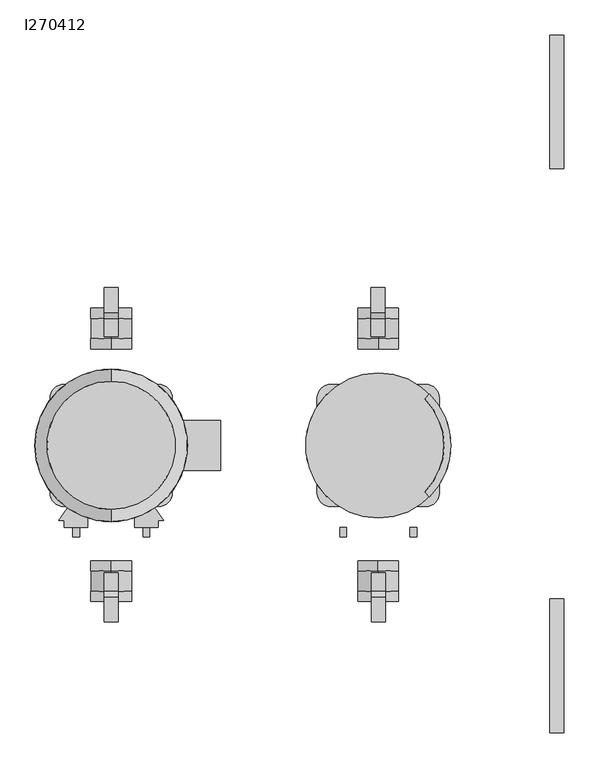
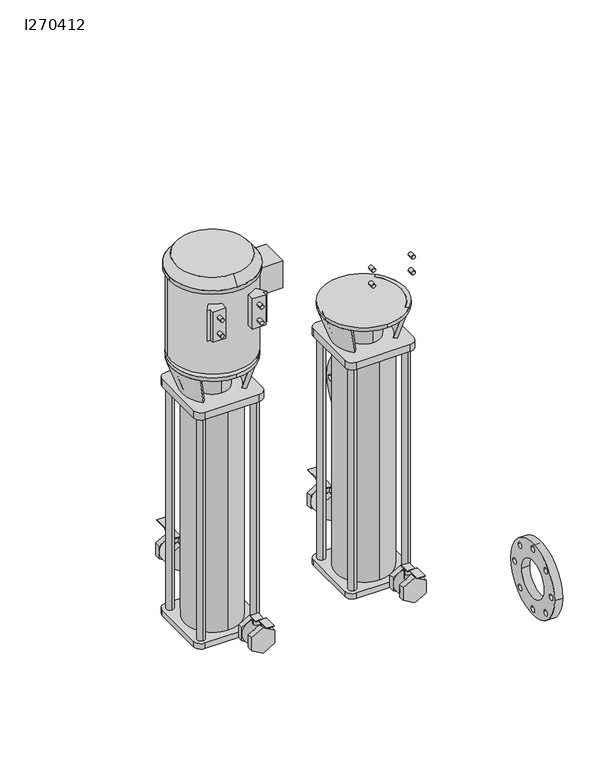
"""IFC4 building model written with IfcOpenShell, lengths in millimetres: proxy geometry, GES Booster Pumps - Armstrong-6800DE2P-SRDR : I270412."""

from ifc_helpers import new_model, si_unit, point, frame, frame_2d, origin, place, context, project, spatial, polyline, circle_curve, trimmed, segment, composite_curve, outline, extrude, source, transform, mapped, element, save
from ifc_brep_helpers import plane_surface, revolved_surface, advanced_brep


def i270412_7bbb27d8(model_context):
    return source(origin(), model_context, "Body", "SolidModel", [
        extrude(outline(composite_curve([segment(trimmed(circle_curve(frame_2d((-412.496, 170.688)), 125.0), [point((-287.496, 170.688))], [point((-537.496, 170.688))], False, "CARTESIAN"), True, "CONTINUOUS"), segment(trimmed(circle_curve(frame_2d((-412.496, 170.688)), 125.0), [point((-537.496, 170.688))], [point((-287.496, 170.688))], False, "CARTESIAN"), True, "CONTINUOUS")], self_intersect=False), holes=[composite_curve([segment(trimmed(circle_curve(frame_2d((-486.156, 244.348)), 9.652), [point((-495.808, 244.348))], [point((-476.504, 244.348))], True, "CARTESIAN"), True, "CONTINUOUS"), segment(trimmed(circle_curve(frame_2d((-486.156, 244.348)), 9.652), [point((-476.504, 244.348))], [point((-495.808, 244.348))], True, "CARTESIAN"), True, "CONTINUOUS")], self_intersect=False), composite_curve([segment(trimmed(circle_curve(frame_2d((-517.398, 170.688)), 9.652), [point((-527.05, 170.688))], [point((-507.746, 170.688))], True, "CARTESIAN"), True, "CONTINUOUS"), segment(trimmed(circle_curve(frame_2d((-517.398, 170.688)), 9.652), [point((-507.746, 170.688))], [point((-527.05, 170.688))], True, "CARTESIAN"), True, "CONTINUOUS")], self_intersect=False), composite_curve([segment(trimmed(circle_curve(frame_2d((-486.156, 97.028)), 9.652), [point((-495.808, 97.028))], [point((-476.504, 97.028))], True, "CARTESIAN"), True, "CONTINUOUS"), segment(trimmed(circle_curve(frame_2d((-486.156, 97.028)), 9.652), [point((-476.504, 97.028))], [point((-495.808, 97.028))], True, "CARTESIAN"), True, "CONTINUOUS")], self_intersect=False), composite_curve([segment(trimmed(circle_curve(frame_2d((-412.496, 65.786)), 9.652), [point((-422.148, 65.786))], [point((-402.844, 65.786))], True, "CARTESIAN"), True, "CONTINUOUS"), segment(trimmed(circle_curve(frame_2d((-412.496, 65.786)), 9.652), [point((-402.844, 65.786))], [point((-422.148, 65.786))], True, "CARTESIAN"), True, "CONTINUOUS")], self_intersect=False), composite_curve([segment(trimmed(circle_curve(frame_2d((-307.594, 170.688)), 9.652), [point((-317.246, 170.688))], [point((-297.942, 170.688))], True, "CARTESIAN"), True, "CONTINUOUS"), segment(trimmed(circle_curve(frame_2d((-307.594, 170.688)), 9.652), [point((-297.942, 170.688))], [point((-317.246, 170.688))], True, "CARTESIAN"), True, "CONTINUOUS")], self_intersect=False), composite_curve([segment(trimmed(circle_curve(frame_2d((-338.836, 244.348)), 9.652), [point((-348.488, 244.348))], [point((-329.184, 244.348))], True, "CARTESIAN"), True, "CONTINUOUS"), segment(trimmed(circle_curve(frame_2d((-338.836, 244.348)), 9.652), [point((-329.184, 244.348))], [point((-348.488, 244.348))], True, "CARTESIAN"), True, "CONTINUOUS")], self_intersect=False), composite_curve([segment(trimmed(circle_curve(frame_2d((-412.496, 275.59)), 9.652), [point((-422.148, 275.59))], [point((-402.844, 275.59))], True, "CARTESIAN"), True, "CONTINUOUS"), segment(trimmed(circle_curve(frame_2d((-412.496, 275.59)), 9.652), [point((-402.844, 275.59))], [point((-422.148, 275.59))], True, "CARTESIAN"), True, "CONTINUOUS")], self_intersect=False), composite_curve([segment(trimmed(circle_curve(frame_2d((-338.836, 97.028)), 9.652), [point((-348.488, 97.028))], [point((-329.184, 97.028))], True, "CARTESIAN"), True, "CONTINUOUS"), segment(trimmed(circle_curve(frame_2d((-338.836, 97.028)), 9.652), [point((-329.184, 97.028))], [point((-348.488, 97.028))], True, "CARTESIAN"), True, "CONTINUOUS")], self_intersect=False), composite_curve([segment(trimmed(circle_curve(frame_2d((-412.496, 170.688)), 63.5), [point((-348.996, 170.688))], [point((-475.996, 170.688))], True, "CARTESIAN"), True, "CONTINUOUS"), segment(trimmed(circle_curve(frame_2d((-412.496, 170.688)), 63.5), [point((-475.996, 170.688))], [point((-348.996, 170.688))], True, "CARTESIAN"), True, "CONTINUOUS")], self_intersect=False)]), frame((554.771, 0.0, 0.0), z_axis=(1.0, 0.0, 0.0), x_axis=(0.0, 1.0, 0.0)), (0.0, 0.0, 1.0), 26.0),
        extrude(outline(composite_curve([segment(trimmed(circle_curve(frame_2d((643.636, 170.688)), 125.0), [point((768.636, 170.688))], [point((518.636, 170.688))], False, "CARTESIAN"), True, "CONTINUOUS"), segment(trimmed(circle_curve(frame_2d((643.636, 170.688)), 125.0), [point((518.636, 170.688))], [point((768.636, 170.688))], False, "CARTESIAN"), True, "CONTINUOUS")], self_intersect=False), holes=[composite_curve([segment(trimmed(circle_curve(frame_2d((569.976, 244.348)), 9.652), [point((560.324, 244.348))], [point((579.628, 244.348))], True, "CARTESIAN"), True, "CONTINUOUS"), segment(trimmed(circle_curve(frame_2d((569.976, 244.348)), 9.652), [point((579.628, 244.348))], [point((560.324, 244.348))], True, "CARTESIAN"), True, "CONTINUOUS")], self_intersect=False), composite_curve([segment(trimmed(circle_curve(frame_2d((538.734, 170.688)), 9.652), [point((529.082, 170.688))], [point((548.386, 170.688))], True, "CARTESIAN"), True, "CONTINUOUS"), segment(trimmed(circle_curve(frame_2d((538.734, 170.688)), 9.652), [point((548.386, 170.688))], [point((529.082, 170.688))], True, "CARTESIAN"), True, "CONTINUOUS")], self_intersect=False), composite_curve([segment(trimmed(circle_curve(frame_2d((569.976, 97.028)), 9.652), [point((560.324, 97.028))], [point((579.628, 97.028))], True, "CARTESIAN"), True, "CONTINUOUS"), segment(trimmed(circle_curve(frame_2d((569.976, 97.028)), 9.652), [point((579.628, 97.028))], [point((560.324, 97.028))], True, "CARTESIAN"), True, "CONTINUOUS")], self_intersect=False), composite_curve([segment(trimmed(circle_curve(frame_2d((643.636, 65.786)), 9.652), [point((633.984, 65.786))], [point((653.288, 65.786))], True, "CARTESIAN"), True, "CONTINUOUS"), segment(trimmed(circle_curve(frame_2d((643.636, 65.786)), 9.652), [point((653.288, 65.786))], [point((633.984, 65.786))], True, "CARTESIAN"), True, "CONTINUOUS")], self_intersect=False), composite_curve([segment(trimmed(circle_curve(frame_2d((748.538, 170.688)), 9.652), [point((738.886, 170.688))], [point((758.19, 170.688))], True, "CARTESIAN"), True, "CONTINUOUS"), segment(trimmed(circle_curve(frame_2d((748.538, 170.688)), 9.652), [point((758.19, 170.688))], [point((738.886, 170.688))], True, "CARTESIAN"), True, "CONTINUOUS")], self_intersect=False), composite_curve([segment(trimmed(circle_curve(frame_2d((717.296, 244.348)), 9.652), [point((707.644, 244.348))], [point((726.948, 244.348))], True, "CARTESIAN"), True, "CONTINUOUS"), segment(trimmed(circle_curve(frame_2d((717.296, 244.348)), 9.652), [point((726.948, 244.348))], [point((707.644, 244.348))], True, "CARTESIAN"), True, "CONTINUOUS")], self_intersect=False), composite_curve([segment(trimmed(circle_curve(frame_2d((643.636, 275.59)), 9.652), [point((633.984, 275.59))], [point((653.288, 275.59))], True, "CARTESIAN"), True, "CONTINUOUS"), segment(trimmed(circle_curve(frame_2d((643.636, 275.59)), 9.652), [point((653.288, 275.59))], [point((633.984, 275.59))], True, "CARTESIAN"), True, "CONTINUOUS")], self_intersect=False), composite_curve([segment(trimmed(circle_curve(frame_2d((717.296, 97.028)), 9.652), [point((707.644, 97.028))], [point((726.948, 97.028))], True, "CARTESIAN"), True, "CONTINUOUS"), segment(trimmed(circle_curve(frame_2d((717.296, 97.028)), 9.652), [point((726.948, 97.028))], [point((707.644, 97.028))], True, "CARTESIAN"), True, "CONTINUOUS")], self_intersect=False), composite_curve([segment(trimmed(circle_curve(frame_2d((643.636, 170.688)), 63.5), [point((707.136, 170.688))], [point((580.136, 170.688))], True, "CARTESIAN"), True, "CONTINUOUS"), segment(trimmed(circle_curve(frame_2d((643.636, 170.688)), 63.5), [point((580.136, 170.688))], [point((707.136, 170.688))], True, "CARTESIAN"), True, "CONTINUOUS")], self_intersect=False)]), frame((555.025, 0.0, 0.0), z_axis=(1.0, 0.0, 0.0), x_axis=(0.0, 1.0, 0.0)), (0.0, 0.0, 1.0), 26.0),
        extrude(outline(polyline([(-238.5428709, 229.743), (-238.5428709, 227.203), (-271.5758463, 227.203), (-284.2758463, 238.506), (-330.073, 238.506), (-330.073, 240.538), (-284.0737107, 240.538), (-271.8817107, 229.743), (-238.5428709, 229.743)])), frame((-279.2750755, 0.0, 0.0), z_axis=(1.0, 0.0, 0.0), x_axis=(0.0, 1.0, 0.0)), (0.0, 0.0, 1.0), 26.1980307),
        extrude(outline(composite_curve([segment(trimmed(circle_curve(frame_2d((170.688, -266.573)), 38.1), [point((132.588, -266.573))], [point((208.788, -266.573))], False, "CARTESIAN"), True, "CONTINUOUS"), segment(trimmed(circle_curve(frame_2d((170.688, -266.573)), 38.1), [point((208.788, -266.573))], [point((132.588, -266.573))], False, "CARTESIAN"), True, "CONTINUOUS")], self_intersect=False)), frame((0.0, -272.923, 0.0), z_axis=(0.0, 1.0, 0.0), x_axis=(0.0, 0.0, 1.0)), (0.0, 0.0, 1.0), 38.1),
        extrude(outline(polyline([(192.8157236, -304.673), (148.5602764, -304.673), (126.6939095, -266.7993416), (148.8216331, -228.473), (192.5543669, -228.473), (214.6820905, -266.7993416), (192.8157236, -304.673)])), frame((0.0, -291.973, 0.0), z_axis=(0.0, 1.0, 0.0), x_axis=(0.0, 0.0, 1.0)), (0.0, 0.0, 1.0), 19.05),
        extrude(outline(composite_curve([segment(trimmed(circle_curve(frame_2d((-266.573, -253.873)), 11.4313706), [point((-278.0043706, -253.873))], [point((-255.1416294, -253.873))], False, "CARTESIAN"), True, "CONTINUOUS"), segment(trimmed(circle_curve(frame_2d((-266.573, -253.873)), 11.4313706), [point((-255.1416294, -253.873))], [point((-278.0043706, -253.873))], False, "CARTESIAN"), True, "CONTINUOUS")], self_intersect=False)), frame((0.0, 0.0, 170.688), z_axis=(0.0, 0.0, 1.0), x_axis=(1.0, 0.0, 0.0)), (0.0, 0.0, 1.0), 56.515),
        extrude(outline(polyline([(192.8157236, -304.673), (148.5602764, -304.673), (126.6939095, -266.7993416), (148.8216331, -228.473), (192.5543669, -228.473), (214.6820905, -266.7993416), (192.8157236, -304.673)])), frame((0.0, -234.823, 0.0), z_axis=(0.0, 1.0, 0.0), x_axis=(0.0, 0.0, 1.0)), (0.0, 0.0, 1.0), 19.05),
        extrude(outline(polyline([(203.7448709, 229.743), (237.0837107, 229.743), (249.2757107, 240.538), (295.275, 240.538), (295.275, 238.506), (249.4778463, 238.506), (236.7778463, 227.203), (203.7448709, 227.203), (203.7448709, 229.743)])), frame((-280.0689552, 0.0, 0.0), z_axis=(1.0, 0.0, 0.0), x_axis=(0.0, 1.0, 0.0)), (0.0, 0.0, 1.0), 26.1980307),
        extrude(outline(composite_curve([segment(trimmed(circle_curve(frame_2d((170.688, -266.573)), 38.1), [point((132.588, -266.573))], [point((208.788, -266.573))], False, "CARTESIAN"), True, "CONTINUOUS"), segment(trimmed(circle_curve(frame_2d((170.688, -266.573)), 38.1), [point((208.788, -266.573))], [point((132.588, -266.573))], False, "CARTESIAN"), True, "CONTINUOUS")], self_intersect=False)), frame((0.0, 200.025, 0.0), z_axis=(0.0, 1.0, 0.0), x_axis=(0.0, 0.0, 1.0)), (0.0, 0.0, 1.0), 38.1),
        extrude(outline(polyline([(192.8157236, -228.473), (214.6820905, -266.3466584), (192.5543669, -304.673), (148.8216331, -304.673), (126.6939095, -266.3466584), (148.5602764, -228.473), (192.8157236, -228.473)])), frame((0.0, 238.125, 0.0), z_axis=(0.0, 1.0, 0.0), x_axis=(0.0, 0.0, 1.0)), (0.0, 0.0, 1.0), 19.05),
        extrude(outline(composite_curve([segment(trimmed(circle_curve(frame_2d((-266.573, 219.075)), 11.4313706), [point((-255.1416294, 219.075))], [point((-278.0043706, 219.075))], False, "CARTESIAN"), True, "CONTINUOUS"), segment(trimmed(circle_curve(frame_2d((-266.573, 219.075)), 11.4313706), [point((-278.0043706, 219.075))], [point((-255.1416294, 219.075))], False, "CARTESIAN"), True, "CONTINUOUS")], self_intersect=False)), frame((0.0, 0.0, 170.688), z_axis=(0.0, 0.0, 1.0), x_axis=(1.0, 0.0, 0.0)), (0.0, 0.0, 1.0), 56.515),
        extrude(outline(polyline([(192.8157236, -228.473), (214.6820905, -266.3466584), (192.5543669, -304.673), (148.8216331, -304.673), (126.6939095, -266.3466584), (148.5602764, -228.473), (192.8157236, -228.473)])), frame((0.0, 180.975, 0.0), z_axis=(0.0, 1.0, 0.0), x_axis=(0.0, 0.0, 1.0)), (0.0, 0.0, 1.0), 19.05),
        extrude(outline(polyline([(-238.5428709, 229.743), (-238.5428709, 227.203), (-271.5758463, 227.203), (-284.2758463, 238.506), (-330.073, 238.506), (-330.073, 240.538), (-284.0737107, 240.538), (-271.8817107, 229.743), (-238.5428709, 229.743)])), frame((220.8509245, 0.0, 0.0), z_axis=(1.0, 0.0, 0.0), x_axis=(0.0, 1.0, 0.0)), (0.0, 0.0, 1.0), 26.1980307),
        extrude(outline(composite_curve([segment(trimmed(circle_curve(frame_2d((170.688, 233.553)), 38.1), [point((132.588, 233.553))], [point((208.788, 233.553))], False, "CARTESIAN"), True, "CONTINUOUS"), segment(trimmed(circle_curve(frame_2d((170.688, 233.553)), 38.1), [point((208.788, 233.553))], [point((132.588, 233.553))], False, "CARTESIAN"), True, "CONTINUOUS")], self_intersect=False)), frame((0.0, -272.923, 0.0), z_axis=(0.0, 1.0, 0.0), x_axis=(0.0, 0.0, 1.0)), (0.0, 0.0, 1.0), 38.1),
        extrude(outline(polyline([(192.8157236, 195.453), (148.5602764, 195.453), (126.6939095, 233.3266584), (148.8216331, 271.653), (192.5543669, 271.653), (214.6820905, 233.3266584), (192.8157236, 195.453)])), frame((0.0, -291.973, 0.0), z_axis=(0.0, 1.0, 0.0), x_axis=(0.0, 0.0, 1.0)), (0.0, 0.0, 1.0), 19.05),
        extrude(outline(composite_curve([segment(trimmed(circle_curve(frame_2d((233.553, -253.873)), 11.4313706), [point((222.1216294, -253.873))], [point((244.9843706, -253.873))], False, "CARTESIAN"), True, "CONTINUOUS"), segment(trimmed(circle_curve(frame_2d((233.553, -253.873)), 11.4313706), [point((244.9843706, -253.873))], [point((222.1216294, -253.873))], False, "CARTESIAN"), True, "CONTINUOUS")], self_intersect=False)), frame((0.0, 0.0, 170.688), z_axis=(0.0, 0.0, 1.0), x_axis=(1.0, 0.0, 0.0)), (0.0, 0.0, 1.0), 56.515),
        extrude(outline(polyline([(192.8157236, 195.453), (148.5602764, 195.453), (126.6939095, 233.3266584), (148.8216331, 271.653), (192.5543669, 271.653), (214.6820905, 233.3266584), (192.8157236, 195.453)])), frame((0.0, -234.823, 0.0), z_axis=(0.0, 1.0, 0.0), x_axis=(0.0, 0.0, 1.0)), (0.0, 0.0, 1.0), 19.05),
        extrude(outline(polyline([(203.7448709, 229.743), (237.0837107, 229.743), (249.2757107, 240.538), (295.275, 240.538), (295.275, 238.506), (249.4778463, 238.506), (236.7778463, 227.203), (203.7448709, 227.203), (203.7448709, 229.743)])), frame((220.0570448, 0.0, 0.0), z_axis=(1.0, 0.0, 0.0), x_axis=(0.0, 1.0, 0.0)), (0.0, 0.0, 1.0), 26.1980307),
        extrude(outline(composite_curve([segment(trimmed(circle_curve(frame_2d((170.688, 233.553)), 38.1), [point((132.588, 233.553))], [point((208.788, 233.553))], False, "CARTESIAN"), True, "CONTINUOUS"), segment(trimmed(circle_curve(frame_2d((170.688, 233.553)), 38.1), [point((208.788, 233.553))], [point((132.588, 233.553))], False, "CARTESIAN"), True, "CONTINUOUS")], self_intersect=False)), frame((0.0, 200.025, 0.0), z_axis=(0.0, 1.0, 0.0), x_axis=(0.0, 0.0, 1.0)), (0.0, 0.0, 1.0), 38.1),
        extrude(outline(polyline([(192.8157236, 271.653), (214.6820905, 233.7793416), (192.5543669, 195.453), (148.8216331, 195.453), (126.6939095, 233.7793416), (148.5602764, 271.653), (192.8157236, 271.653)])), frame((0.0, 238.125, 0.0), z_axis=(0.0, 1.0, 0.0), x_axis=(0.0, 0.0, 1.0)), (0.0, 0.0, 1.0), 19.05),
        extrude(outline(composite_curve([segment(trimmed(circle_curve(frame_2d((233.553, 219.075)), 11.4313706), [point((244.9843706, 219.075))], [point((222.1216294, 219.075))], False, "CARTESIAN"), True, "CONTINUOUS"), segment(trimmed(circle_curve(frame_2d((233.553, 219.075)), 11.4313706), [point((222.1216294, 219.075))], [point((244.9843706, 219.075))], False, "CARTESIAN"), True, "CONTINUOUS")], self_intersect=False)), frame((0.0, 0.0, 170.688), z_axis=(0.0, 0.0, 1.0), x_axis=(1.0, 0.0, 0.0)), (0.0, 0.0, 1.0), 56.515),
        extrude(outline(polyline([(192.8157236, 271.653), (214.6820905, 233.7793416), (192.5543669, 195.453), (148.8216331, 195.453), (126.6939095, 233.7793416), (148.5602764, 271.653), (192.8157236, 271.653)])), frame((0.0, 180.975, 0.0), z_axis=(0.0, 1.0, 0.0), x_axis=(0.0, 0.0, 1.0)), (0.0, 0.0, 1.0), 19.05),
        extrude(outline(composite_curve([segment(trimmed(circle_curve(frame_2d((-266.573, 0.0)), 54.2925), [point((-266.573, -54.2925))], [point((-266.573, 54.2925))], False, "CARTESIAN"), True, "CONTINUOUS"), segment(trimmed(circle_curve(frame_2d((-266.573, 0.0)), 54.2925), [point((-266.573, 54.2925))], [point((-266.573, -54.2925))], False, "CARTESIAN"), True, "CONTINUOUS")], self_intersect=False)), frame((0.0, 0.0, 892.048), z_axis=(0.0, 0.0, 1.0), x_axis=(1.0, 0.0, 0.0)), (0.0, 0.0, 1.0), 50.8),
        advanced_brep(
        [(-364.20425, 0.0, 993.648), (-168.94175, 0.0, 993.648), (-320.8655, 0.0, 942.848), (-212.2805, 0.0, 942.848)],
        [
            (0, 1, circle_curve(frame((-266.573, 0.0, 993.648), z_axis=(0.0, 0.0, 1.0), x_axis=(1.0000000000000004, 0.0, 0.0)), 97.63125)),
            (1, 0, circle_curve(frame((-266.573, 0.0, 993.648), z_axis=(0.0, 0.0, 1.0), x_axis=(-1.0000000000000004, 0.0, 0.0)), 97.63125)),
            (2, 3, circle_curve(frame((-266.573, 0.0, 942.848), z_axis=(0.0, 0.0, -1.0), x_axis=(-1.0000000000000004, 0.0, 0.0)), 54.2925)),
            (3, 2, circle_curve(frame((-266.573, 0.0, 942.848), z_axis=(0.0, 0.0, -1.0), x_axis=(1.0000000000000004, 0.0, 0.0)), 54.2925)),
            (2, 0),
            (1, 3),
        ],
        [
            plane_surface(frame((-266.573, 0.0, 993.648), z_axis=(0.0, 0.0, 1.0), x_axis=(0.0, 1.0, 0.0))),
            plane_surface(frame((-266.573, 0.0, 942.848), z_axis=(0.0, 0.0, -1.0), x_axis=(0.0, 1.0, 0.0))),
            revolved_surface(polyline([(-320.86549998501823, 0.0, 942.848), (-364.20425, 0.0, 993.648)]), (-266.573, 0.0, 879.2084396), (0.0, 0.0, 1.0000000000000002)),
            revolved_surface(polyline([(-212.28050001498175, 0.0, 942.848), (-168.94175, 0.0, 993.648)]), (-266.573, 0.0, 879.2084396), (0.0, 0.0, 1.0000000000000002)),
        ],
        [
            (0, [[1, 2]]),
            (1, [[3, 4]]),
            (2, [[5, -2, 6, -3]]),
            (3, [[-6, -1, -5, -4]]),
        ],
    ),
        advanced_brep(
        [(-353.5692312, -86.9962312, 993.648), (-353.5692312, 86.9962312, 993.648), (-362.5494873, 95.9764873, 993.648), (-362.5494873, -95.9764873, 993.648), (-328.3122608, -61.7392608, 892.048), (-337.292517, -70.719517, 892.048), (-337.292517, 70.719517, 892.048), (-328.3122608, 61.7392608, 892.048)],
        [
            (0, 1, circle_curve(frame((-266.573, 0.0, 993.648), z_axis=(0.0, 0.0, -1.0), x_axis=(-0.7071067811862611, 0.7071067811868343, 0.0)), 123.03125)),
            (1, 2),
            (2, 3, circle_curve(frame((-266.573, 0.0, 993.648), z_axis=(0.0, 0.0, 1.0), x_axis=(-0.7071067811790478, -0.7071067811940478, 0.0)), 135.73125)),
            (3, 0),
            (4, 5),
            (5, 6, circle_curve(frame((-266.573, 0.0, 892.048), z_axis=(0.0, 0.0, -1.0), x_axis=(-0.7071067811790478, -0.7071067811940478, 0.0)), 100.0125)),
            (6, 7),
            (7, 4, circle_curve(frame((-266.573, 0.0, 892.048), z_axis=(0.0, 0.0, 1.0), x_axis=(-0.7071067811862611, 0.7071067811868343, 0.0)), 87.3125)),
            (7, 1),
            (0, 4),
            (6, 2),
            (5, 3),
        ],
        [
            plane_surface(frame((-358.0593592, 0.0, 993.648), z_axis=(0.0, 0.0, 1.0), x_axis=(-0.7071067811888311, 0.707106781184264, 0.0))),
            plane_surface(frame((-332.8023889, 0.0, 892.048), z_axis=(0.0, 0.0, -1.0), x_axis=(-0.7071067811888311, 0.707106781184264, 0.0))),
            revolved_surface(polyline([(-353.5692312, 86.9962312, 993.648), (-328.3122608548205, 61.73926085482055, 892.048)]), (-266.573, 0.0, 643.6924444), (0.0, 0.0, 1.0000000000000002)),
            plane_surface(frame((-332.8023889, 66.2293889, 892.048), z_axis=(0.7071067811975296, 0.7071067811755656, 4.489564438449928e-12), x_axis=(0.7071067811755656, -0.7071067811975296, 0.0))),
            revolved_surface(polyline([(-337.2925169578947, -70.71951695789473, 892.048), (-362.5494873, -95.9764873, 993.648)]), (-266.573, 0.0, 607.568), (0.0, 0.0, 1.0000000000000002)),
            plane_surface(frame((-332.8023889, -66.2293889, 892.048), z_axis=(0.707106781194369, -0.7071067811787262, 1.862399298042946e-12), x_axis=(-0.7071067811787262, -0.707106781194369, 0.0))),
        ],
        [
            (0, [[1, 2, 3, 4]]),
            (1, [[5, 6, 7, 8]]),
            (2, [[9, -1, 10, -8]]),
            (3, [[11, -2, -9, -7]]),
            (4, [[12, -3, -11, -6]]),
            (5, [[-10, -4, -12, -5]]),
        ],
    ),
        advanced_brep(
        [(-179.5767688, -86.9962312, 1006.348), (-170.5965127, -95.9764873, 1006.348), (-170.5965127, 95.9764873, 1006.348), (-179.5767688, 86.9962312, 1006.348), (-204.8337392, -61.7392608, 892.048), (-204.8337392, 61.7392608, 892.048), (-195.853483, 70.719517, 892.048), (-195.853483, -70.719517, 892.048)],
        [
            (0, 1),
            (1, 2, circle_curve(frame((-266.573, 0.0, 1006.348), z_axis=(0.0, 0.0, 1.0), x_axis=(0.7071067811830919, 0.7071067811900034, 0.0)), 135.73125)),
            (2, 3),
            (3, 0, circle_curve(frame((-266.573, 0.0, 1006.348), z_axis=(0.0, 0.0, -1.0), x_axis=(0.7071067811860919, -0.7071067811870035, 0.0)), 123.03125)),
            (4, 5, circle_curve(frame((-266.573, 0.0, 892.048), z_axis=(0.0, 0.0, 1.0), x_axis=(0.7071067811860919, -0.7071067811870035, 0.0)), 87.3125)),
            (5, 6),
            (6, 7, circle_curve(frame((-266.573, 0.0, 892.048), z_axis=(0.0, 0.0, -1.0), x_axis=(0.7071067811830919, 0.7071067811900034, 0.0)), 100.0125)),
            (7, 4),
            (4, 0),
            (3, 5),
            (2, 6),
            (1, 7),
        ],
        [
            plane_surface(frame((-175.0866408, 0.0, 1006.348), z_axis=(0.0, 0.0, 1.0000000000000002), x_axis=(-0.7071067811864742, 0.707106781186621, 0.0))),
            plane_surface(frame((-200.3436111, 0.0, 892.048), z_axis=(0.0, 0.0, -1.0000000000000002), x_axis=(-0.7071067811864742, 0.707106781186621, 0.0))),
            revolved_surface(polyline([(-179.5767688, -86.9962312, 1006.348), (-204.83373914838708, -61.739260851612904, 892.048)]), (-266.573, 0.0, 612.648), (0.0, 0.0, 1.0000000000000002)),
            plane_surface(frame((-200.3436111, 66.2293889, 892.048), z_axis=(-0.7071067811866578, 0.7071067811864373, -1.5338439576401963e-12), x_axis=(0.7071067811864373, 0.7071067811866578, 0.0))),
            revolved_surface(polyline([(-195.85348304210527, 70.71951695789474, 892.048), (-170.5965127, 95.9764873, 1006.348)]), (-266.573, 0.0, 572.008), (0.0, 0.0, 1.0000000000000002)),
            plane_surface(frame((-200.3436111, -66.2293889, 892.048), z_axis=(-0.707106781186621, -0.7071067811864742, 0.0), x_axis=(-0.7071067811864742, 0.707106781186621, 0.0))),
        ],
        [
            (0, [[1, 2, 3, 4]]),
            (1, [[5, 6, 7, 8]]),
            (2, [[9, -4, 10, -5]]),
            (3, [[-10, -3, 11, -6]]),
            (4, [[-11, -2, 12, -7]]),
            (5, [[-12, -1, -9, -8]]),
        ],
    ),
        extrude(outline(composite_curve([segment(trimmed(circle_curve(frame_2d((-266.573, 0.0)), 135.73125), [point((-266.573, -135.73125))], [point((-266.573, 135.73125))], False, "CARTESIAN"), True, "CONTINUOUS"), segment(trimmed(circle_curve(frame_2d((-266.573, 0.0)), 135.73125), [point((-266.573, 135.73125))], [point((-266.573, -135.73125))], False, "CARTESIAN"), True, "CONTINUOUS")], self_intersect=False)), frame((0.0, 0.0, 993.648), z_axis=(0.0, 0.0, 1.0), x_axis=(1.0, 0.0, 0.0)), (0.0, 0.0, 1.0), 12.7),
        extrude(outline(composite_curve([segment(trimmed(circle_curve(frame_2d((1183.9956, -200.8124)), 6.35), [point((1183.9956, -194.4624))], [point((1183.9956, -207.1624))], False, "CARTESIAN"), True, "CONTINUOUS"), segment(trimmed(circle_curve(frame_2d((1183.9956, -200.8124)), 6.35), [point((1183.9956, -207.1624))], [point((1183.9956, -194.4624))], False, "CARTESIAN"), True, "CONTINUOUS")], self_intersect=False)), frame((0.0, -171.45, 0.0), z_axis=(0.0, 1.0, 0.0), x_axis=(0.0, 0.0, 1.0)), (0.0, 0.0, 1.0), 18.415),
        extrude(outline(composite_curve([segment(trimmed(circle_curve(frame_2d((1239.266, -200.8124)), 6.35), [point((1239.266, -194.4624))], [point((1239.266, -207.1624))], False, "CARTESIAN"), True, "CONTINUOUS"), segment(trimmed(circle_curve(frame_2d((1239.266, -200.8124)), 6.35), [point((1239.266, -207.1624))], [point((1239.266, -194.4624))], False, "CARTESIAN"), True, "CONTINUOUS")], self_intersect=False)), frame((0.0, -171.45, 0.0), z_axis=(0.0, 1.0, 0.0), x_axis=(0.0, 0.0, 1.0)), (0.0, 0.0, 1.0), 18.415),
        extrude(outline(composite_curve([segment(trimmed(circle_curve(frame_2d((1239.266, -332.3336)), 6.35), [point((1239.266, -325.9836))], [point((1239.266, -338.6836))], False, "CARTESIAN"), True, "CONTINUOUS"), segment(trimmed(circle_curve(frame_2d((1239.266, -332.3336)), 6.35), [point((1239.266, -338.6836))], [point((1239.266, -325.9836))], False, "CARTESIAN"), True, "CONTINUOUS")], self_intersect=False)), frame((0.0, -171.45, 0.0), z_axis=(0.0, 1.0, 0.0), x_axis=(0.0, 0.0, 1.0)), (0.0, 0.0, 1.0), 18.415),
        extrude(outline(composite_curve([segment(trimmed(circle_curve(frame_2d((1183.9956, -332.3336)), 6.35), [point((1183.9956, -325.9836))], [point((1183.9956, -338.6836))], False, "CARTESIAN"), True, "CONTINUOUS"), segment(trimmed(circle_curve(frame_2d((1183.9956, -332.3336)), 6.35), [point((1183.9956, -338.6836))], [point((1183.9956, -325.9836))], False, "CARTESIAN"), True, "CONTINUOUS")], self_intersect=False)), frame((0.0, -171.45, 0.0), z_axis=(0.0, 1.0, 0.0), x_axis=(0.0, 0.0, 1.0)), (0.0, 0.0, 1.0), 18.415),
        extrude(outline(composite_curve([segment(trimmed(circle_curve(frame_2d((-355.473, 88.9)), 12.7), [point((-355.473, 101.6))], [point((-355.473, 76.2))], False, "CARTESIAN"), True, "CONTINUOUS"), segment(trimmed(circle_curve(frame_2d((-355.473, 88.9)), 12.7), [point((-355.473, 76.2))], [point((-355.473, 101.6))], False, "CARTESIAN"), True, "CONTINUOUS")], self_intersect=False)), frame((0.0, 0.0, 85.09), z_axis=(0.0, 0.0, 1.0), x_axis=(1.0, 0.0, 0.0)), (0.0, 0.0, 1.0), 781.558),
        extrude(outline(composite_curve([segment(trimmed(circle_curve(frame_2d((-355.473, -88.9)), 12.7), [point((-355.473, -76.2))], [point((-355.473, -101.6))], False, "CARTESIAN"), True, "CONTINUOUS"), segment(trimmed(circle_curve(frame_2d((-355.473, -88.9)), 12.7), [point((-355.473, -101.6))], [point((-355.473, -76.2))], False, "CARTESIAN"), True, "CONTINUOUS")], self_intersect=False)), frame((0.0, 0.0, 85.09), z_axis=(0.0, 0.0, 1.0), x_axis=(1.0, 0.0, 0.0)), (0.0, 0.0, 1.0), 781.558),
        extrude(outline(composite_curve([segment(trimmed(circle_curve(frame_2d((-177.673, -88.9)), 12.7), [point((-177.673, -76.2))], [point((-177.673, -101.6))], False, "CARTESIAN"), True, "CONTINUOUS"), segment(trimmed(circle_curve(frame_2d((-177.673, -88.9)), 12.7), [point((-177.673, -101.6))], [point((-177.673, -76.2))], False, "CARTESIAN"), True, "CONTINUOUS")], self_intersect=False)), frame((0.0, 0.0, 85.09), z_axis=(0.0, 0.0, 1.0), x_axis=(1.0, 0.0, 0.0)), (0.0, 0.0, 1.0), 781.558),
        extrude(outline(composite_curve([segment(trimmed(circle_curve(frame_2d((-177.673, 88.9)), 12.7), [point((-177.673, 101.6))], [point((-177.673, 76.2))], False, "CARTESIAN"), True, "CONTINUOUS"), segment(trimmed(circle_curve(frame_2d((-177.673, 88.9)), 12.7), [point((-177.673, 76.2))], [point((-177.673, 101.6))], False, "CARTESIAN"), True, "CONTINUOUS")], self_intersect=False)), frame((0.0, 0.0, 85.09), z_axis=(0.0, 0.0, 1.0), x_axis=(1.0, 0.0, 0.0)), (0.0, 0.0, 1.0), 781.558),
        extrude(outline(composite_curve([segment(polyline([(-380.873, -88.9), (-380.873, 88.9)]), True, "CONTINUOUS"), segment(trimmed(circle_curve(frame_2d((-355.473, 88.9)), 25.4), [point((-380.873, 88.9))], [point((-355.473, 114.3))], False, "CARTESIAN"), True, "CONTINUOUS"), segment(polyline([(-355.473, 114.3), (-177.673, 114.3)]), True, "CONTINUOUS"), segment(trimmed(circle_curve(frame_2d((-177.673, 88.9)), 25.4), [point((-177.673, 114.3))], [point((-152.273, 88.9))], False, "CARTESIAN"), True, "CONTINUOUS"), segment(polyline([(-152.273, 88.9), (-152.273, -88.9)]), True, "CONTINUOUS"), segment(trimmed(circle_curve(frame_2d((-177.673, -88.9)), 25.4), [point((-152.273, -88.9))], [point((-177.673, -114.3))], False, "CARTESIAN"), True, "CONTINUOUS"), segment(polyline([(-177.673, -114.3), (-355.473, -114.3)]), True, "CONTINUOUS"), segment(trimmed(circle_curve(frame_2d((-355.473, -88.9)), 25.4), [point((-355.473, -114.3))], [point((-380.873, -88.9))], False, "CARTESIAN"), True, "CONTINUOUS")], self_intersect=False)), frame((0.0, 0.0, 66.04), z_axis=(0.0, 0.0, 1.0), x_axis=(1.0, 0.0, 0.0)), (0.0, 0.0, 1.0), 19.05),
        extrude(outline(composite_curve([segment(trimmed(circle_curve(frame_2d((-266.573, 0.0)), 91.44), [point((-266.573, 91.44))], [point((-266.573, -91.44))], False, "CARTESIAN"), True, "CONTINUOUS"), segment(trimmed(circle_curve(frame_2d((-266.573, 0.0)), 91.44), [point((-266.573, -91.44))], [point((-266.573, 91.44))], False, "CARTESIAN"), True, "CONTINUOUS")], self_intersect=False)), frame((0.0, 0.0, 85.09), z_axis=(0.0, 0.0, 1.0), x_axis=(1.0, 0.0, 0.0)), (0.0, 0.0, 1.0), 781.558),
        extrude(outline(composite_curve([segment(polyline([(-380.873, -88.9), (-380.873, 88.9)]), True, "CONTINUOUS"), segment(trimmed(circle_curve(frame_2d((-355.473, 88.9)), 25.4), [point((-380.873, 88.9))], [point((-355.473, 114.3))], False, "CARTESIAN"), True, "CONTINUOUS"), segment(polyline([(-355.473, 114.3), (-177.673, 114.3)]), True, "CONTINUOUS"), segment(trimmed(circle_curve(frame_2d((-177.673, 88.9)), 25.4), [point((-177.673, 114.3))], [point((-152.273, 88.9))], False, "CARTESIAN"), True, "CONTINUOUS"), segment(polyline([(-152.273, 88.9), (-152.273, -88.9)]), True, "CONTINUOUS"), segment(trimmed(circle_curve(frame_2d((-177.673, -88.9)), 25.4), [point((-152.273, -88.9))], [point((-177.673, -114.3))], False, "CARTESIAN"), True, "CONTINUOUS"), segment(polyline([(-177.673, -114.3), (-355.473, -114.3)]), True, "CONTINUOUS"), segment(trimmed(circle_curve(frame_2d((-355.473, -88.9)), 25.4), [point((-355.473, -114.3))], [point((-380.873, -88.9))], False, "CARTESIAN"), True, "CONTINUOUS")], self_intersect=False)), frame((0.0, 0.0, 866.648), z_axis=(0.0, 0.0, 1.0), x_axis=(1.0, 0.0, 0.0)), (0.0, 0.0, 1.0), 25.4),
        extrude(outline(composite_curve([segment(trimmed(circle_curve(frame_2d((-266.573, 0.0)), 135.73125), [point((-132.9038127, -23.5694842))], [point((-400.2421873, 23.5694842))], False, "CARTESIAN"), True, "CONTINUOUS"), segment(trimmed(circle_curve(frame_2d((-266.573, 0.0)), 135.73125), [point((-400.2421873, 23.5694842))], [point((-132.9038127, -23.5694842))], False, "CARTESIAN"), True, "CONTINUOUS")], self_intersect=False)), frame((0.0, 0.0, 1019.048), z_axis=(0.0, 0.0, 1.0), x_axis=(1.0, 0.0, 0.0)), (0.0, 0.0, 1.0), 283.718),
        extrude(outline(composite_curve([segment(polyline([(-310.4134, -128.4561853), (-310.4134, -153.035), (-354.2538, -153.035), (-354.2538, -140.335), (-364.8366249, -140.335), (-344.4252467, -111.1845309)]), True, "CONTINUOUS"), segment(trimmed(circle_curve(frame_2d((-266.573, 0.0)), 135.73125), [point((-344.4252467, -111.1845309))], [point((-310.4134, -128.4561853))], True, "CARTESIAN"), True, "CONTINUOUS")], self_intersect=False)), frame((0.0, 0.0, 1158.5956), z_axis=(0.0, 0.0, 1.0), x_axis=(1.0, 0.0, 0.0)), (0.0, 0.0, 1.0), 106.0704),
        extrude(outline(composite_curve([segment(trimmed(circle_curve(frame_2d((-266.573, 0.0)), 135.73125), [point((-222.7326, -128.4561853))], [point((-188.7207533, -111.1845309))], True, "CARTESIAN"), True, "CONTINUOUS"), segment(polyline([(-188.7207533, -111.1845309), (-168.3093751, -140.335), (-178.8922, -140.335), (-178.8922, -153.035), (-222.7326, -153.035), (-222.7326, -128.4561853)]), True, "CONTINUOUS")], self_intersect=False)), frame((0.0, 0.0, 1158.5956), z_axis=(0.0, 0.0, 1.0), x_axis=(1.0, 0.0, 0.0)), (0.0, 0.0, 1.0), 106.0704),
        extrude(outline(composite_curve([segment(polyline([(-61.468, -47.14875), (-139.2939067, -47.14875)]), True, "CONTINUOUS"), segment(trimmed(circle_curve(frame_2d((-266.573, 0.0)), 135.73125), [point((-139.2939067, -47.14875))], [point((-139.2939067, 47.14875))], True, "CARTESIAN"), True, "CONTINUOUS"), segment(polyline([(-139.2939067, 47.14875), (-61.468, 47.14875), (-61.468, -47.14875)]), True, "CONTINUOUS")], self_intersect=False)), frame((0.0, 0.0, 1183.0685), z_axis=(0.0, 0.0, 1.0), x_axis=(1.0, 0.0, 0.0)), (0.0, 0.0, 1.0), 94.2975),
        extrude(outline(composite_curve([segment(trimmed(circle_curve(frame_2d((-266.573, 0.0)), 142.875), [point((-409.448, 0.0))], [point((-123.698, 0.0))], False, "CARTESIAN"), True, "CONTINUOUS"), segment(trimmed(circle_curve(frame_2d((-266.573, 0.0)), 142.875), [point((-123.698, 0.0))], [point((-409.448, 0.0))], False, "CARTESIAN"), True, "CONTINUOUS")], self_intersect=False)), frame((0.0, 0.0, 1302.766), z_axis=(0.0, 0.0, 1.0), x_axis=(1.0, 0.0, 0.0)), (0.0, 0.0, 1.0), 12.7),
        advanced_brep(
        [(-266.573, -120.015, 1347.216), (-266.573, 120.015, 1347.216), (-266.573, -142.875, 1315.466), (-266.573, 142.875, 1315.466)],
        [
            (0, 1, circle_curve(frame((-266.573, 0.0, 1347.216), z_axis=(0.0, 0.0, 1.0), x_axis=(0.0, 1.0000000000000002, 0.0)), 120.015)),
            (1, 0, circle_curve(frame((-266.573, 0.0, 1347.216), z_axis=(0.0, 0.0, 1.0), x_axis=(0.0, -1.0000000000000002, 0.0)), 120.015)),
            (2, 3, circle_curve(frame((-266.573, 0.0, 1315.466), z_axis=(0.0, 0.0, -1.0), x_axis=(0.0, -1.0000000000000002, 0.0)), 142.875)),
            (3, 2, circle_curve(frame((-266.573, 0.0, 1315.466), z_axis=(0.0, 0.0, -1.0), x_axis=(0.0, 1.0000000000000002, 0.0)), 142.875)),
            (2, 0),
            (1, 3),
        ],
        [
            plane_surface(frame((-266.573, 0.0, 1347.216), z_axis=(0.0, 0.0, 1.0), x_axis=(-1.0, 0.0, 0.0))),
            plane_surface(frame((-266.573, 0.0, 1315.466), z_axis=(0.0, 0.0, -1.0), x_axis=(-1.0, 0.0, 0.0))),
            revolved_surface(polyline([(-266.573, -120.01499999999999, 1347.216), (-266.573, -142.875, 1315.466)]), (-266.573, 0.0, 1513.9035), (0.0, 0.0, -1.0000000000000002)),
            revolved_surface(polyline([(-266.573, 120.01499999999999, 1347.216), (-266.573, 142.875, 1315.466)]), (-266.573, 0.0, 1513.9035), (0.0, 0.0, -1.0000000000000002)),
        ],
        [
            (0, [[1, 2]]),
            (1, [[3, 4]]),
            (2, [[5, -2, 6, -3]]),
            (3, [[-6, -1, -5, -4]]),
        ],
    ),
        extrude(outline(composite_curve([segment(trimmed(circle_curve(frame_2d((-266.573, 0.0)), 114.3), [point((-266.573, 114.3))], [point((-266.573, -114.3))], False, "CARTESIAN"), True, "CONTINUOUS"), segment(trimmed(circle_curve(frame_2d((-266.573, 0.0)), 114.3), [point((-266.573, -114.3))], [point((-266.573, 114.3))], False, "CARTESIAN"), True, "CONTINUOUS")], self_intersect=False)), frame((0.0, 0.0, 1006.348), z_axis=(0.0, 0.0, 1.0), x_axis=(1.0, 0.0, 0.0)), (0.0, 0.0, 1.0), 12.7),
        extrude(outline(composite_curve([segment(trimmed(circle_curve(frame_2d((233.553, 0.0)), 54.2925), [point((233.553, -54.2925))], [point((233.553, 54.2925))], False, "CARTESIAN"), True, "CONTINUOUS"), segment(trimmed(circle_curve(frame_2d((233.553, 0.0)), 54.2925), [point((233.553, 54.2925))], [point((233.553, -54.2925))], False, "CARTESIAN"), True, "CONTINUOUS")], self_intersect=False)), frame((0.0, 0.0, 892.048), z_axis=(0.0, 0.0, 1.0), x_axis=(1.0, 0.0, 0.0)), (0.0, 0.0, 1.0), 50.8),
        advanced_brep(
        [(135.92175, 0.0, 993.648), (331.18425, 0.0, 993.648), (179.2605, 0.0, 942.848), (287.8455, 0.0, 942.848)],
        [
            (0, 1, circle_curve(frame((233.553, 0.0, 993.648), z_axis=(0.0, 0.0, 1.0), x_axis=(1.0000000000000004, 0.0, 0.0)), 97.63125)),
            (1, 0, circle_curve(frame((233.553, 0.0, 993.648), z_axis=(0.0, 0.0, 1.0), x_axis=(-1.0000000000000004, 0.0, 0.0)), 97.63125)),
            (2, 3, circle_curve(frame((233.553, 0.0, 942.848), z_axis=(0.0, 0.0, -1.0), x_axis=(-1.0000000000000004, 0.0, 0.0)), 54.2925)),
            (3, 2, circle_curve(frame((233.553, 0.0, 942.848), z_axis=(0.0, 0.0, -1.0), x_axis=(1.0000000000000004, 0.0, 0.0)), 54.2925)),
            (2, 0),
            (1, 3),
        ],
        [
            plane_surface(frame((233.553, 0.0, 993.648), z_axis=(0.0, 0.0, 1.0), x_axis=(0.0, 1.0, 0.0))),
            plane_surface(frame((233.553, 0.0, 942.848), z_axis=(0.0, 0.0, -1.0), x_axis=(0.0, 1.0, 0.0))),
            revolved_surface(polyline([(179.26050001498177, 0.0, 942.848), (135.92175, 0.0, 993.648)]), (233.553, 0.0, 879.2084396), (0.0, 0.0, 1.0000000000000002)),
            revolved_surface(polyline([(287.84549998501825, 0.0, 942.848), (331.18425, 0.0, 993.648)]), (233.553, 0.0, 879.2084396), (0.0, 0.0, 1.0000000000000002)),
        ],
        [
            (0, [[1, 2]]),
            (1, [[3, 4]]),
            (2, [[5, -2, 6, -3]]),
            (3, [[-6, -1, -5, -4]]),
        ],
    ),
        advanced_brep(
        [(146.5567688, -86.9962312, 993.648), (146.5567688, 86.9962312, 993.648), (137.5765127, 95.9764873, 993.648), (137.5765127, -95.9764873, 993.648), (171.8137392, -61.7392608, 892.048), (162.833483, -70.719517, 892.048), (162.833483, 70.719517, 892.048), (171.8137392, 61.7392608, 892.048)],
        [
            (0, 1, circle_curve(frame((233.553, 0.0, 993.648), z_axis=(0.0, 0.0, -1.0), x_axis=(-0.7071067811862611, 0.7071067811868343, 0.0)), 123.03125)),
            (1, 2),
            (2, 3, circle_curve(frame((233.553, 0.0, 993.648), z_axis=(0.0, 0.0, 1.0), x_axis=(-0.7071067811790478, -0.7071067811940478, 0.0)), 135.73125)),
            (3, 0),
            (4, 5),
            (5, 6, circle_curve(frame((233.553, 0.0, 892.048), z_axis=(0.0, 0.0, -1.0), x_axis=(-0.7071067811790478, -0.7071067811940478, 0.0)), 100.0125)),
            (6, 7),
            (7, 4, circle_curve(frame((233.553, 0.0, 892.048), z_axis=(0.0, 0.0, 1.0), x_axis=(-0.7071067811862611, 0.7071067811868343, 0.0)), 87.3125)),
            (7, 1),
            (0, 4),
            (6, 2),
            (5, 3),
        ],
        [
            plane_surface(frame((142.0666408, 0.0, 993.648), z_axis=(0.0, 0.0, 1.0), x_axis=(-0.7071067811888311, 0.707106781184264, 0.0))),
            plane_surface(frame((167.3236111, 0.0, 892.048), z_axis=(0.0, 0.0, -1.0), x_axis=(-0.7071067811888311, 0.707106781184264, 0.0))),
            revolved_surface(polyline([(146.5567688, 86.9962312, 993.648), (171.81373914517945, 61.73926085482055, 892.048)]), (233.553, 0.0, 643.6924444), (0.0, 0.0, 1.0000000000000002)),
            plane_surface(frame((167.3236111, 66.2293889, 892.048), z_axis=(0.7071067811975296, 0.7071067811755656, 4.489564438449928e-12), x_axis=(0.7071067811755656, -0.7071067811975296, 0.0))),
            revolved_surface(polyline([(162.83348304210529, -70.71951695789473, 892.048), (137.5765127, -95.9764873, 993.648)]), (233.553, 0.0, 607.568), (0.0, 0.0, 1.0000000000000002)),
            plane_surface(frame((167.3236111, -66.2293889, 892.048), z_axis=(0.707106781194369, -0.7071067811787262, 1.862399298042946e-12), x_axis=(-0.7071067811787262, -0.707106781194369, 0.0))),
        ],
        [
            (0, [[1, 2, 3, 4]]),
            (1, [[5, 6, 7, 8]]),
            (2, [[9, -1, 10, -8]]),
            (3, [[11, -2, -9, -7]]),
            (4, [[12, -3, -11, -6]]),
            (5, [[-10, -4, -12, -5]]),
        ],
    ),
        advanced_brep(
        [(320.5492312, -86.9962312, 1006.348), (329.5294873, -95.9764873, 1006.348), (329.5294873, 95.9764873, 1006.348), (320.5492312, 86.9962312, 1006.348), (295.2922608, -61.7392608, 892.048), (295.2922608, 61.7392608, 892.048), (304.272517, 70.719517, 892.048), (304.272517, -70.719517, 892.048)],
        [
            (0, 1),
            (1, 2, circle_curve(frame((233.553, 0.0, 1006.348), z_axis=(0.0, 0.0, 1.0), x_axis=(0.7071067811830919, 0.7071067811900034, 0.0)), 135.73125)),
            (2, 3),
            (3, 0, circle_curve(frame((233.553, 0.0, 1006.348), z_axis=(0.0, 0.0, -1.0), x_axis=(0.7071067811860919, -0.7071067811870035, 0.0)), 123.03125)),
            (4, 5, circle_curve(frame((233.553, 0.0, 892.048), z_axis=(0.0, 0.0, 1.0), x_axis=(0.7071067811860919, -0.7071067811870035, 0.0)), 87.3125)),
            (5, 6),
            (6, 7, circle_curve(frame((233.553, 0.0, 892.048), z_axis=(0.0, 0.0, -1.0), x_axis=(0.7071067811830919, 0.7071067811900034, 0.0)), 100.0125)),
            (7, 4),
            (4, 0),
            (3, 5),
            (2, 6),
            (1, 7),
        ],
        [
            plane_surface(frame((325.0393592, 0.0, 1006.348), z_axis=(0.0, 0.0, 1.0000000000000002), x_axis=(-0.7071067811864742, 0.707106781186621, 0.0))),
            plane_surface(frame((299.7823889, 0.0, 892.048), z_axis=(0.0, 0.0, -1.0000000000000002), x_axis=(-0.7071067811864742, 0.707106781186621, 0.0))),
            revolved_surface(polyline([(320.5492312, -86.9962312, 1006.348), (295.2922608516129, -61.739260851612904, 892.048)]), (233.553, 0.0, 612.648), (0.0, 0.0, 1.0000000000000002)),
            plane_surface(frame((299.7823889, 66.2293889, 892.048), z_axis=(-0.7071067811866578, 0.7071067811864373, -1.5338439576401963e-12), x_axis=(0.7071067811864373, 0.7071067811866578, 0.0))),
            revolved_surface(polyline([(304.27251695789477, 70.71951695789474, 892.048), (329.5294873, 95.9764873, 1006.348)]), (233.553, 0.0, 572.008), (0.0, 0.0, 1.0000000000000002)),
            plane_surface(frame((299.7823889, -66.2293889, 892.048), z_axis=(-0.707106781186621, -0.7071067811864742, 0.0), x_axis=(-0.7071067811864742, 0.707106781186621, 0.0))),
        ],
        [
            (0, [[1, 2, 3, 4]]),
            (1, [[5, 6, 7, 8]]),
            (2, [[9, -4, 10, -5]]),
            (3, [[-10, -3, 11, -6]]),
            (4, [[-11, -2, 12, -7]]),
            (5, [[-12, -1, -9, -8]]),
        ],
    ),
        extrude(outline(composite_curve([segment(trimmed(circle_curve(frame_2d((233.553, 0.0)), 135.73125), [point((233.553, -135.73125))], [point((233.553, 135.73125))], False, "CARTESIAN"), True, "CONTINUOUS"), segment(trimmed(circle_curve(frame_2d((233.553, 0.0)), 135.73125), [point((233.553, 135.73125))], [point((233.553, -135.73125))], False, "CARTESIAN"), True, "CONTINUOUS")], self_intersect=False)), frame((0.0, 0.0, 993.648), z_axis=(0.0, 0.0, 1.0), x_axis=(1.0, 0.0, 0.0)), (0.0, 0.0, 1.0), 12.7),
        extrude(outline(composite_curve([segment(trimmed(circle_curve(frame_2d((1183.9956, 299.3136)), 6.35), [point((1183.9956, 305.6636))], [point((1183.9956, 292.9636))], False, "CARTESIAN"), True, "CONTINUOUS"), segment(trimmed(circle_curve(frame_2d((1183.9956, 299.3136)), 6.35), [point((1183.9956, 292.9636))], [point((1183.9956, 305.6636))], False, "CARTESIAN"), True, "CONTINUOUS")], self_intersect=False)), frame((0.0, -171.45, 0.0), z_axis=(0.0, 1.0, 0.0), x_axis=(0.0, 0.0, 1.0)), (0.0, 0.0, 1.0), 18.415),
        extrude(outline(composite_curve([segment(trimmed(circle_curve(frame_2d((1239.266, 299.3136)), 6.35), [point((1239.266, 305.6636))], [point((1239.266, 292.9636))], False, "CARTESIAN"), True, "CONTINUOUS"), segment(trimmed(circle_curve(frame_2d((1239.266, 299.3136)), 6.35), [point((1239.266, 292.9636))], [point((1239.266, 305.6636))], False, "CARTESIAN"), True, "CONTINUOUS")], self_intersect=False)), frame((0.0, -171.45, 0.0), z_axis=(0.0, 1.0, 0.0), x_axis=(0.0, 0.0, 1.0)), (0.0, 0.0, 1.0), 18.415),
        extrude(outline(composite_curve([segment(trimmed(circle_curve(frame_2d((1239.266, 167.7924)), 6.35), [point((1239.266, 174.1424))], [point((1239.266, 161.4424))], False, "CARTESIAN"), True, "CONTINUOUS"), segment(trimmed(circle_curve(frame_2d((1239.266, 167.7924)), 6.35), [point((1239.266, 161.4424))], [point((1239.266, 174.1424))], False, "CARTESIAN"), True, "CONTINUOUS")], self_intersect=False)), frame((0.0, -171.45, 0.0), z_axis=(0.0, 1.0, 0.0), x_axis=(0.0, 0.0, 1.0)), (0.0, 0.0, 1.0), 18.415),
        extrude(outline(composite_curve([segment(trimmed(circle_curve(frame_2d((1183.9956, 167.7924)), 6.35), [point((1183.9956, 174.1424))], [point((1183.9956, 161.4424))], False, "CARTESIAN"), True, "CONTINUOUS"), segment(trimmed(circle_curve(frame_2d((1183.9956, 167.7924)), 6.35), [point((1183.9956, 161.4424))], [point((1183.9956, 174.1424))], False, "CARTESIAN"), True, "CONTINUOUS")], self_intersect=False)), frame((0.0, -171.45, 0.0), z_axis=(0.0, 1.0, 0.0), x_axis=(0.0, 0.0, 1.0)), (0.0, 0.0, 1.0), 18.415),
        extrude(outline(composite_curve([segment(trimmed(circle_curve(frame_2d((144.653, 88.9)), 12.7), [point((144.653, 101.6))], [point((144.653, 76.2))], False, "CARTESIAN"), True, "CONTINUOUS"), segment(trimmed(circle_curve(frame_2d((144.653, 88.9)), 12.7), [point((144.653, 76.2))], [point((144.653, 101.6))], False, "CARTESIAN"), True, "CONTINUOUS")], self_intersect=False)), frame((0.0, 0.0, 85.09), z_axis=(0.0, 0.0, 1.0), x_axis=(1.0, 0.0, 0.0)), (0.0, 0.0, 1.0), 781.558),
        extrude(outline(composite_curve([segment(trimmed(circle_curve(frame_2d((144.653, -88.9)), 12.7), [point((144.653, -76.2))], [point((144.653, -101.6))], False, "CARTESIAN"), True, "CONTINUOUS"), segment(trimmed(circle_curve(frame_2d((144.653, -88.9)), 12.7), [point((144.653, -101.6))], [point((144.653, -76.2))], False, "CARTESIAN"), True, "CONTINUOUS")], self_intersect=False)), frame((0.0, 0.0, 85.09), z_axis=(0.0, 0.0, 1.0), x_axis=(1.0, 0.0, 0.0)), (0.0, 0.0, 1.0), 781.558),
        extrude(outline(composite_curve([segment(trimmed(circle_curve(frame_2d((322.453, -88.9)), 12.7), [point((322.453, -76.2))], [point((322.453, -101.6))], False, "CARTESIAN"), True, "CONTINUOUS"), segment(trimmed(circle_curve(frame_2d((322.453, -88.9)), 12.7), [point((322.453, -101.6))], [point((322.453, -76.2))], False, "CARTESIAN"), True, "CONTINUOUS")], self_intersect=False)), frame((0.0, 0.0, 85.09), z_axis=(0.0, 0.0, 1.0), x_axis=(1.0, 0.0, 0.0)), (0.0, 0.0, 1.0), 781.558),
        extrude(outline(composite_curve([segment(trimmed(circle_curve(frame_2d((322.453, 88.9)), 12.7), [point((322.453, 101.6))], [point((322.453, 76.2))], False, "CARTESIAN"), True, "CONTINUOUS"), segment(trimmed(circle_curve(frame_2d((322.453, 88.9)), 12.7), [point((322.453, 76.2))], [point((322.453, 101.6))], False, "CARTESIAN"), True, "CONTINUOUS")], self_intersect=False)), frame((0.0, 0.0, 85.09), z_axis=(0.0, 0.0, 1.0), x_axis=(1.0, 0.0, 0.0)), (0.0, 0.0, 1.0), 781.558),
        extrude(outline(composite_curve([segment(polyline([(119.253, -88.9), (119.253, 88.9)]), True, "CONTINUOUS"), segment(trimmed(circle_curve(frame_2d((144.653, 88.9)), 25.4), [point((119.253, 88.9))], [point((144.653, 114.3))], False, "CARTESIAN"), True, "CONTINUOUS"), segment(polyline([(144.653, 114.3), (322.453, 114.3)]), True, "CONTINUOUS"), segment(trimmed(circle_curve(frame_2d((322.453, 88.9)), 25.4), [point((322.453, 114.3))], [point((347.853, 88.9))], False, "CARTESIAN"), True, "CONTINUOUS"), segment(polyline([(347.853, 88.9), (347.853, -88.9)]), True, "CONTINUOUS"), segment(trimmed(circle_curve(frame_2d((322.453, -88.9)), 25.4), [point((347.853, -88.9))], [point((322.453, -114.3))], False, "CARTESIAN"), True, "CONTINUOUS"), segment(polyline([(322.453, -114.3), (144.653, -114.3)]), True, "CONTINUOUS"), segment(trimmed(circle_curve(frame_2d((144.653, -88.9)), 25.4), [point((144.653, -114.3))], [point((119.253, -88.9))], False, "CARTESIAN"), True, "CONTINUOUS")], self_intersect=False)), frame((0.0, 0.0, 66.04), z_axis=(0.0, 0.0, 1.0), x_axis=(1.0, 0.0, 0.0)), (0.0, 0.0, 1.0), 19.05),
        extrude(outline(composite_curve([segment(trimmed(circle_curve(frame_2d((233.553, 0.0)), 91.44), [point((233.553, 91.44))], [point((233.553, -91.44))], False, "CARTESIAN"), True, "CONTINUOUS"), segment(trimmed(circle_curve(frame_2d((233.553, 0.0)), 91.44), [point((233.553, -91.44))], [point((233.553, 91.44))], False, "CARTESIAN"), True, "CONTINUOUS")], self_intersect=False)), frame((0.0, 0.0, 85.09), z_axis=(0.0, 0.0, 1.0), x_axis=(1.0, 0.0, 0.0)), (0.0, 0.0, 1.0), 781.558),
        extrude(outline(composite_curve([segment(polyline([(119.253, -88.9), (119.253, 88.9)]), True, "CONTINUOUS"), segment(trimmed(circle_curve(frame_2d((144.653, 88.9)), 25.4), [point((119.253, 88.9))], [point((144.653, 114.3))], False, "CARTESIAN"), True, "CONTINUOUS"), segment(polyline([(144.653, 114.3), (322.453, 114.3)]), True, "CONTINUOUS"), segment(trimmed(circle_curve(frame_2d((322.453, 88.9)), 25.4), [point((322.453, 114.3))], [point((347.853, 88.9))], False, "CARTESIAN"), True, "CONTINUOUS"), segment(polyline([(347.853, 88.9), (347.853, -88.9)]), True, "CONTINUOUS"), segment(trimmed(circle_curve(frame_2d((322.453, -88.9)), 25.4), [point((347.853, -88.9))], [point((322.453, -114.3))], False, "CARTESIAN"), True, "CONTINUOUS"), segment(polyline([(322.453, -114.3), (144.653, -114.3)]), True, "CONTINUOUS"), segment(trimmed(circle_curve(frame_2d((144.653, -88.9)), 25.4), [point((144.653, -114.3))], [point((119.253, -88.9))], False, "CARTESIAN"), True, "CONTINUOUS")], self_intersect=False)), frame((0.0, 0.0, 866.648), z_axis=(0.0, 0.0, 1.0), x_axis=(1.0, 0.0, 0.0)), (0.0, 0.0, 1.0), 25.4),
    ])


if __name__ == "__main__":
    model = new_model("IFC4")
    model_context = context("Model", 3, world=origin())
    ifc_project = project(units=[si_unit("LENGTHUNIT", "METRE", prefix="MILLI")], contexts=[model_context])
    site = spatial("IfcSite", under=ifc_project)
    building = spatial("IfcBuilding", under=site)
    placement = place(None, origin())
    i270412_shape = i270412_7bbb27d8(model_context)
    element("IfcBuildingElementProxy", 1, Name="GES Booster Pumps - Armstrong-6800DE2P-SRDR : I270412", ObjectType="GES Booster Pumps - Armstrong-6800DE2P-SRDR : I270412", at=placement, inside=building, context=model_context, shape_type="MappedRepresentation", body=[
        mapped(i270412_shape, transform((0.0, 0.0, 0.0), x_axis=(1.0, 0.0, 0.0), y_axis=(0.0, 1.0, 0.0), z_axis=(0.0, 0.0, 1.0))),
    ])
    save(model, "model.ifc")
